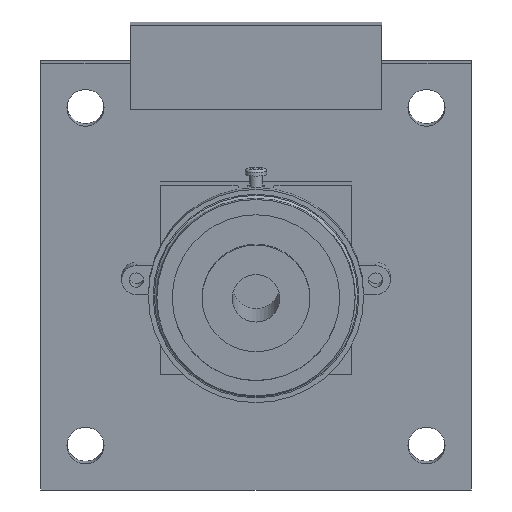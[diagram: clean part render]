
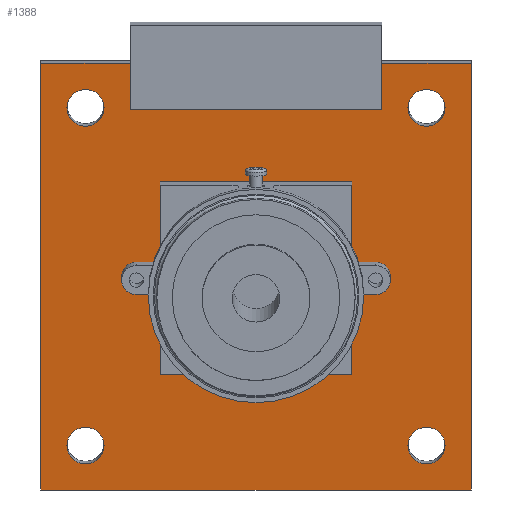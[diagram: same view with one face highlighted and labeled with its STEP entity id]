
A CAD part, front view. The second image highlights one B-rep face of the part: STEP entity #1388.
In plain terms, the highlighted planar face has unit normal (0, -0.99, -0.139).
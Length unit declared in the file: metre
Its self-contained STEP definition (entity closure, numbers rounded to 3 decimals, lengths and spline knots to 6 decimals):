
#25=CIRCLE('',#1411,0.00155);
#37=CIRCLE('',#1449,0.001228);
#63=CIRCLE('',#1508,0.001228);
#65=CIRCLE('',#1515,0.00155);
#67=CIRCLE('',#1518,0.00155);
#69=CIRCLE('',#1521,0.00155);
#399=ORIENTED_EDGE('',*,*,#452,.F.);
#400=ORIENTED_EDGE('',*,*,#577,.T.);
#401=ORIENTED_EDGE('',*,*,#575,.T.);
#402=ORIENTED_EDGE('',*,*,#573,.T.);
#403=ORIENTED_EDGE('',*,*,#570,.F.);
#404=ORIENTED_EDGE('',*,*,#521,.T.);
#405=ORIENTED_EDGE('',*,*,#518,.T.);
#406=ORIENTED_EDGE('',*,*,#515,.T.);
#407=ORIENTED_EDGE('',*,*,#512,.T.);
#408=ORIENTED_EDGE('',*,*,#509,.T.);
#409=ORIENTED_EDGE('',*,*,#504,.F.);
#410=ORIENTED_EDGE('',*,*,#503,.T.);
#411=ORIENTED_EDGE('',*,*,#578,.T.);
#412=ORIENTED_EDGE('',*,*,#580,.F.);
#413=ORIENTED_EDGE('',*,*,#582,.F.);
#414=ORIENTED_EDGE('',*,*,#584,.F.);
#415=ORIENTED_EDGE('',*,*,#604,.F.);
#416=ORIENTED_EDGE('',*,*,#603,.F.);
#417=ORIENTED_EDGE('',*,*,#599,.T.);
#418=ORIENTED_EDGE('',*,*,#609,.F.);
#419=ORIENTED_EDGE('',*,*,#591,.T.);
#420=ORIENTED_EDGE('',*,*,#588,.T.);
#421=ORIENTED_EDGE('',*,*,#611,.F.);
#422=ORIENTED_EDGE('',*,*,#610,.F.);
#452=EDGE_CURVE('',#622,#622,#25,.T.);
#503=EDGE_CURVE('',#658,#661,#791,.T.);
#504=EDGE_CURVE('',#658,#662,#37,.T.);
#509=EDGE_CURVE('',#664,#662,#795,.T.);
#512=EDGE_CURVE('',#666,#664,#798,.T.);
#515=EDGE_CURVE('',#668,#666,#801,.T.);
#518=EDGE_CURVE('',#670,#668,#804,.T.);
#521=EDGE_CURVE('',#672,#670,#807,.T.);
#570=EDGE_CURVE('',#672,#712,#63,.T.);
#573=EDGE_CURVE('',#713,#712,#828,.T.);
#575=EDGE_CURVE('',#714,#713,#830,.T.);
#577=EDGE_CURVE('',#715,#714,#832,.T.);
#578=EDGE_CURVE('',#661,#715,#833,.T.);
#580=EDGE_CURVE('',#717,#717,#65,.T.);
#582=EDGE_CURVE('',#719,#719,#67,.T.);
#584=EDGE_CURVE('',#721,#721,#69,.T.);
#588=EDGE_CURVE('',#722,#725,#837,.T.);
#591=EDGE_CURVE('',#726,#722,#840,.T.);
#599=EDGE_CURVE('',#734,#735,#848,.T.);
#603=EDGE_CURVE('',#734,#736,#852,.T.);
#604=EDGE_CURVE('',#736,#737,#853,.T.);
#609=EDGE_CURVE('',#726,#735,#858,.T.);
#610=EDGE_CURVE('',#737,#738,#859,.T.);
#611=EDGE_CURVE('',#738,#725,#860,.T.);
#622=VERTEX_POINT('',#1948);
#658=VERTEX_POINT('',#2057);
#661=VERTEX_POINT('',#2062);
#662=VERTEX_POINT('',#2066);
#664=VERTEX_POINT('',#2072);
#666=VERTEX_POINT('',#2078);
#668=VERTEX_POINT('',#2084);
#670=VERTEX_POINT('',#2090);
#672=VERTEX_POINT('',#2096);
#712=VERTEX_POINT('',#9167);
#713=VERTEX_POINT('',#9171);
#714=VERTEX_POINT('',#9175);
#715=VERTEX_POINT('',#9179);
#717=VERTEX_POINT('',#9187);
#719=VERTEX_POINT('',#9192);
#721=VERTEX_POINT('',#9197);
#722=VERTEX_POINT('',#9200);
#725=VERTEX_POINT('',#9205);
#726=VERTEX_POINT('',#9209);
#734=VERTEX_POINT('',#9230);
#735=VERTEX_POINT('',#9231);
#736=VERTEX_POINT('',#9236);
#737=VERTEX_POINT('',#9240);
#738=VERTEX_POINT('',#9246);
#791=LINE('',#2063,#913);
#795=LINE('',#2075,#917);
#798=LINE('',#2081,#920);
#801=LINE('',#2087,#923);
#804=LINE('',#2093,#926);
#807=LINE('',#2099,#929);
#828=LINE('',#9172,#950);
#830=LINE('',#9176,#952);
#832=LINE('',#9180,#954);
#833=LINE('',#9182,#955);
#837=LINE('',#9206,#959);
#840=LINE('',#9212,#962);
#848=LINE('',#9229,#970);
#852=LINE('',#9237,#974);
#853=LINE('',#9239,#975);
#858=LINE('',#9249,#980);
#859=LINE('',#9250,#981);
#860=LINE('',#9252,#982);
#913=VECTOR('',#1675,1.);
#917=VECTOR('',#1687,1.);
#920=VECTOR('',#1692,1.);
#923=VECTOR('',#1697,1.);
#926=VECTOR('',#1702,1.);
#929=VECTOR('',#1707,1.);
#950=VECTOR('',#1836,1.);
#952=VECTOR('',#1840,1.);
#954=VECTOR('',#1844,1.);
#955=VECTOR('',#1847,1.);
#959=VECTOR('',#1871,1.);
#962=VECTOR('',#1876,1.);
#970=VECTOR('',#1890,1.);
#974=VECTOR('',#1896,1.);
#975=VECTOR('',#1899,1.);
#980=VECTOR('',#1908,1.);
#981=VECTOR('',#1909,1.);
#982=VECTOR('',#1912,1.);
#1102=EDGE_LOOP('',(#399));
#1103=EDGE_LOOP('',(#400,#401,#402,#403,#404,#405,#406,#407,#408,#409,#410,
#411));
#1104=EDGE_LOOP('',(#412));
#1105=EDGE_LOOP('',(#413));
#1106=EDGE_LOOP('',(#414));
#1107=EDGE_LOOP('',(#415,#416,#417,#418,#419,#420,#421,#422));
#1233=FACE_BOUND('',#1102,.T.);
#1234=FACE_BOUND('',#1103,.T.);
#1235=FACE_BOUND('',#1104,.T.);
#1236=FACE_BOUND('',#1105,.T.);
#1237=FACE_BOUND('',#1106,.T.);
#1238=FACE_BOUND('',#1107,.T.);
#1302=PLANE('',#1531);
#1388=ADVANCED_FACE('',(#1233,#1234,#1235,#1236,#1237,#1238),#1302,.F.);
#1411=AXIS2_PLACEMENT_3D('',#1947,#1562,#1563);
#1449=AXIS2_PLACEMENT_3D('',#2065,#1678,#1679);
#1508=AXIS2_PLACEMENT_3D('',#9166,#1830,#1831);
#1515=AXIS2_PLACEMENT_3D('',#9186,#1852,#1853);
#1518=AXIS2_PLACEMENT_3D('',#9191,#1858,#1859);
#1521=AXIS2_PLACEMENT_3D('',#9196,#1864,#1865);
#1531=AXIS2_PLACEMENT_3D('',#9251,#1910,#1911);
#1562=DIRECTION('',(0.,-0.99,-0.139));
#1563=DIRECTION('',(-1.,0.,0.));
#1675=DIRECTION('',(1.,0.,0.));
#1678=DIRECTION('',(0.,-0.99,-0.139));
#1679=DIRECTION('',(-1.,0.,0.));
#1687=DIRECTION('',(-1.,0.,0.));
#1692=DIRECTION('',(0.,-0.139,0.99));
#1697=DIRECTION('',(-1.,0.,0.));
#1702=DIRECTION('',(0.,0.139,-0.99));
#1707=DIRECTION('',(-1.,0.,0.));
#1830=DIRECTION('',(0.,-0.99,-0.139));
#1831=DIRECTION('',(1.,0.,0.));
#1836=DIRECTION('',(1.,0.,0.));
#1840=DIRECTION('',(0.,0.139,-0.99));
#1844=DIRECTION('',(1.,0.,0.));
#1847=DIRECTION('',(0.,-0.139,0.99));
#1852=DIRECTION('',(0.,-0.99,-0.139));
#1853=DIRECTION('',(-1.,0.,0.));
#1858=DIRECTION('',(0.,-0.99,-0.139));
#1859=DIRECTION('',(-1.,0.,0.));
#1864=DIRECTION('',(0.,-0.99,-0.139));
#1865=DIRECTION('',(-1.,0.,0.));
#1871=DIRECTION('',(1.,0.,0.));
#1876=DIRECTION('',(0.,0.139,-0.99));
#1890=DIRECTION('',(0.,-0.139,0.99));
#1896=DIRECTION('',(1.,0.,0.));
#1899=DIRECTION('',(0.,-0.139,0.99));
#1908=DIRECTION('',(1.,0.,0.));
#1909=DIRECTION('',(1.,0.,0.));
#1910=DIRECTION('',(0.,0.99,0.139));
#1911=DIRECTION('',(1.,0.,0.));
#1912=DIRECTION('',(0.,0.139,-0.99));
#1947=CARTESIAN_POINT('',(-0.020203,0.012643,1.377471));
#1948=CARTESIAN_POINT('',(-0.021753,0.012643,1.377471));
#2057=CARTESIAN_POINT('',(-0.015953,0.014456,1.364576));
#2062=CARTESIAN_POINT('',(-0.013953,0.014456,1.364576));
#2063=CARTESIAN_POINT('',(-0.015953,0.014456,1.364576));
#2065=CARTESIAN_POINT('',(-0.015953,0.014626,1.363359));
#2066=CARTESIAN_POINT('',(-0.015953,0.014797,1.362143));
#2072=CARTESIAN_POINT('',(-0.013953,0.014797,1.362143));
#2075=CARTESIAN_POINT('',(-0.013953,0.014797,1.362143));
#2078=CARTESIAN_POINT('',(-0.013953,0.01574,1.355437));
#2081=CARTESIAN_POINT('',(-0.013953,0.01574,1.355437));
#2084=CARTESIAN_POINT('',(0.002047,0.01574,1.355437));
#2087=CARTESIAN_POINT('',(0.002047,0.01574,1.355437));
#2090=CARTESIAN_POINT('',(0.002047,0.014797,1.362143));
#2093=CARTESIAN_POINT('',(0.002047,0.014797,1.362143));
#2096=CARTESIAN_POINT('',(0.004047,0.014797,1.362143));
#2099=CARTESIAN_POINT('',(0.004047,0.014797,1.362143));
#9166=CARTESIAN_POINT('',(0.004047,0.014626,1.363359));
#9167=CARTESIAN_POINT('',(0.004047,0.014456,1.364576));
#9171=CARTESIAN_POINT('',(0.002047,0.014456,1.364576));
#9172=CARTESIAN_POINT('',(0.002047,0.014456,1.364576));
#9175=CARTESIAN_POINT('',(0.002047,0.013513,1.371281));
#9176=CARTESIAN_POINT('',(0.002047,0.013513,1.371281));
#9179=CARTESIAN_POINT('',(-0.013953,0.013513,1.371281));
#9180=CARTESIAN_POINT('',(-0.013953,0.013513,1.371281));
#9182=CARTESIAN_POINT('',(-0.013953,0.014456,1.364576));
#9186=CARTESIAN_POINT('',(-0.020203,0.01661,1.349248));
#9187=CARTESIAN_POINT('',(-0.021753,0.01661,1.349248));
#9191=CARTESIAN_POINT('',(0.008297,0.012643,1.377471));
#9192=CARTESIAN_POINT('',(0.006747,0.012643,1.377471));
#9196=CARTESIAN_POINT('',(0.008297,0.01661,1.349248));
#9197=CARTESIAN_POINT('',(0.006747,0.01661,1.349248));
#9200=CARTESIAN_POINT('',(-0.023953,0.017132,1.345534));
#9205=CARTESIAN_POINT('',(0.012047,0.017132,1.345534));
#9206=CARTESIAN_POINT('',(-0.023953,0.017132,1.345534));
#9209=CARTESIAN_POINT('',(-0.023953,0.012121,1.381184));
#9212=CARTESIAN_POINT('',(-0.023953,0.012121,1.381184));
#9229=CARTESIAN_POINT('',(-0.016453,0.012628,1.377578));
#9230=CARTESIAN_POINT('',(-0.016453,0.012628,1.377578));
#9231=CARTESIAN_POINT('',(-0.016453,0.012121,1.381184));
#9236=CARTESIAN_POINT('',(0.004547,0.012628,1.377578));
#9237=CARTESIAN_POINT('',(-0.016453,0.012628,1.377578));
#9239=CARTESIAN_POINT('',(0.004547,0.012628,1.377578));
#9240=CARTESIAN_POINT('',(0.004547,0.012121,1.381184));
#9246=CARTESIAN_POINT('',(0.012047,0.012121,1.381184));
#9249=CARTESIAN_POINT('',(-0.023953,0.012121,1.381184));
#9250=CARTESIAN_POINT('',(0.004547,0.012121,1.381184));
#9251=CARTESIAN_POINT('',(-0.005953,0.014626,1.363359));
#9252=CARTESIAN_POINT('',(0.012047,0.012121,1.381184));
